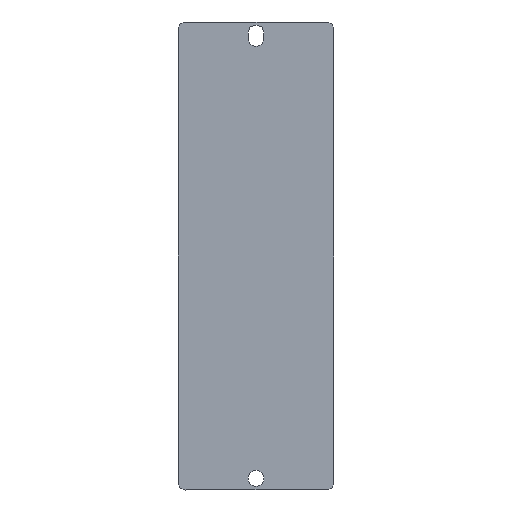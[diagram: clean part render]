
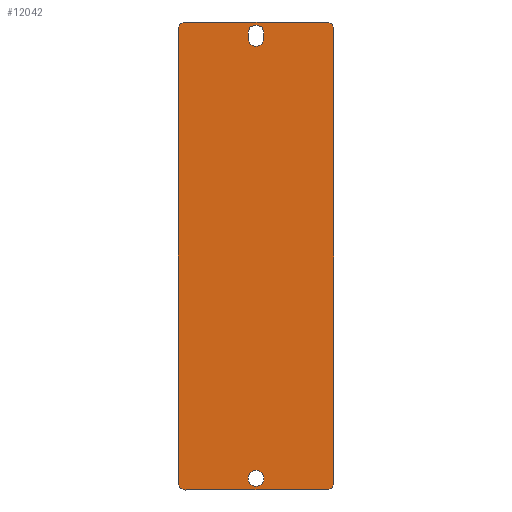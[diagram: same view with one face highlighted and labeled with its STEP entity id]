
A CAD part, front view. The second image highlights one B-rep face of the part: STEP entity #12042.
In plain terms, the highlighted planar face has unit normal (0, -1, 0).
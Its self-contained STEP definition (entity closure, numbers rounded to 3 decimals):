
#534 = EDGE_LOOP ( 'NONE', ( #47332, #43582 ) ) ;
#585 = VERTEX_POINT ( 'NONE', #20238 ) ;
#844 = AXIS2_PLACEMENT_3D ( 'NONE', #26925, #3196, #7349 ) ;
#1400 = EDGE_CURVE ( 'NONE', #16658, #34668, #44317, .T. ) ;
#1497 = VERTEX_POINT ( 'NONE', #35077 ) ;
#1546 = ORIENTED_EDGE ( 'NONE', *, *, #3498, .F. ) ;
#2523 = EDGE_CURVE ( 'NONE', #10595, #59843, #42676, .T. ) ;
#2930 = EDGE_CURVE ( 'NONE', #1497, #12662, #45647, .T. ) ;
#3196 = DIRECTION ( 'NONE',  ( 0., 1., 0. ) ) ;
#3498 = EDGE_CURVE ( 'NONE', #26806, #25078, #10182, .T. ) ;
#5101 = AXIS2_PLACEMENT_3D ( 'NONE', #58248, #57820, #15718 ) ;
#5510 = EDGE_CURVE ( 'NONE', #41748, #16658, #33462, .T. ) ;
#6770 = EDGE_CURVE ( 'NONE', #585, #1497, #54981, .T. ) ;
#7349 = DIRECTION ( 'NONE',  ( 0., 0., -1. ) ) ;
#7425 = CARTESIAN_POINT ( 'NONE',  ( -31.717, -22.634, 263.75 ) ) ;
#8023 = DIRECTION ( 'NONE',  ( 0., 0., -1. ) ) ;
#9322 = DIRECTION ( 'NONE',  ( 0., 0., -1. ) ) ;
#9494 = FACE_BOUND ( 'NONE', #43096, .T. ) ;
#9588 = PLANE ( 'NONE',  #41302 ) ;
#10097 = CARTESIAN_POINT ( 'NONE',  ( -58.642, -22.634, 270. ) ) ;
#10182 = LINE ( 'NONE', #11301, #33570 ) ;
#10581 = DIRECTION ( 'NONE',  ( 0., -1., 0. ) ) ;
#10595 = VERTEX_POINT ( 'NONE', #48214 ) ;
#11100 = VECTOR ( 'NONE', #34784, 1000. ) ;
#11146 = EDGE_CURVE ( 'NONE', #59843, #26806, #50159, .T. ) ;
#11280 = CIRCLE ( 'NONE', #38828, 3.075 ) ;
#11301 = CARTESIAN_POINT ( 'NONE',  ( -58.642, -22.634, 90. ) ) ;
#12042 = ADVANCED_FACE ( 'NONE', ( #17794, #9494, #29117 ), #9588, .F. ) ;
#12662 = VERTEX_POINT ( 'NONE', #22127 ) ;
#12758 = CARTESIAN_POINT ( 'NONE',  ( -25.566, -22.634, 263.75 ) ) ;
#12855 = EDGE_CURVE ( 'NONE', #55141, #24501, #15458, .T. ) ;
#13066 = CARTESIAN_POINT ( 'NONE',  ( -55.642, -22.634, 270. ) ) ;
#13133 = AXIS2_PLACEMENT_3D ( 'NONE', #19957, #53420, #19095 ) ;
#13393 = VECTOR ( 'NONE', #27809, 1000. ) ;
#13706 = CARTESIAN_POINT ( 'NONE',  ( -58.642, -22.634, 267. ) ) ;
#15458 = CIRCLE ( 'NONE', #13133, 3.075 ) ;
#15718 = DIRECTION ( 'NONE',  ( 0., 0., 1. ) ) ;
#16658 = VERTEX_POINT ( 'NONE', #17035 ) ;
#17035 = CARTESIAN_POINT ( 'NONE',  ( -28.642, -22.634, 268.825 ) ) ;
#17794 = FACE_OUTER_BOUND ( 'NONE', #57933, .T. ) ;
#17902 = ORIENTED_EDGE ( 'NONE', *, *, #2930, .F. ) ;
#18046 = CARTESIAN_POINT ( 'NONE',  ( -25.566, -22.634, 90. ) ) ;
#18398 = CARTESIAN_POINT ( 'NONE',  ( -31.717, -22.634, 90. ) ) ;
#18456 = CARTESIAN_POINT ( 'NONE',  ( -58.642, -22.634, 90. ) ) ;
#19095 = DIRECTION ( 'NONE',  ( 0., 0., 1. ) ) ;
#19957 = CARTESIAN_POINT ( 'NONE',  ( -28.642, -22.634, 94.5 ) ) ;
#19986 = LINE ( 'NONE', #18046, #27485 ) ;
#20238 = CARTESIAN_POINT ( 'NONE',  ( -1.642, -22.634, 270. ) ) ;
#21222 = ORIENTED_EDGE ( 'NONE', *, *, #2523, .F. ) ;
#22127 = CARTESIAN_POINT ( 'NONE',  ( 1.358, -22.634, 93. ) ) ;
#22302 = EDGE_CURVE ( 'NONE', #12662, #10595, #35530, .T. ) ;
#22889 = EDGE_CURVE ( 'NONE', #61076, #41748, #19986, .T. ) ;
#23810 = AXIS2_PLACEMENT_3D ( 'NONE', #56215, #32639, #37436 ) ;
#23919 = CARTESIAN_POINT ( 'NONE',  ( -55.642, -22.634, 93. ) ) ;
#24186 = DIRECTION ( 'NONE',  ( 0., 0., 1. ) ) ;
#24501 = VERTEX_POINT ( 'NONE', #57812 ) ;
#25078 = VERTEX_POINT ( 'NONE', #13706 ) ;
#25679 = DIRECTION ( 'NONE',  ( 0., 0., 1. ) ) ;
#25854 = ORIENTED_EDGE ( 'NONE', *, *, #1400, .F. ) ;
#25878 = ORIENTED_EDGE ( 'NONE', *, *, #39957, .F. ) ;
#26236 = EDGE_CURVE ( 'NONE', #24501, #55141, #11280, .T. ) ;
#26446 = AXIS2_PLACEMENT_3D ( 'NONE', #39383, #10581, #44188 ) ;
#26636 = DIRECTION ( 'NONE',  ( 0., -1., 0. ) ) ;
#26806 = VERTEX_POINT ( 'NONE', #35498 ) ;
#26925 = CARTESIAN_POINT ( 'NONE',  ( -1.642, -22.634, 267. ) ) ;
#27485 = VECTOR ( 'NONE', #41957, 1000. ) ;
#27522 = AXIS2_PLACEMENT_3D ( 'NONE', #37018, #31625, #8023 ) ;
#27809 = DIRECTION ( 'NONE',  ( -1., 0., 0. ) ) ;
#28280 = ORIENTED_EDGE ( 'NONE', *, *, #6770, .F. ) ;
#29117 = FACE_BOUND ( 'NONE', #534, .T. ) ;
#29247 = DIRECTION ( 'NONE',  ( 0., -1., 0. ) ) ;
#30567 = ORIENTED_EDGE ( 'NONE', *, *, #22302, .F. ) ;
#31564 = VERTEX_POINT ( 'NONE', #13066 ) ;
#31625 = DIRECTION ( 'NONE',  ( 0., 1., 0. ) ) ;
#32639 = DIRECTION ( 'NONE',  ( 0., 1., 0. ) ) ;
#33462 = CIRCLE ( 'NONE', #5101, 3.075 ) ;
#33570 = VECTOR ( 'NONE', #25679, 1000. ) ;
#34668 = VERTEX_POINT ( 'NONE', #38764 ) ;
#34784 = DIRECTION ( 'NONE',  ( 0., 0., -1. ) ) ;
#35077 = CARTESIAN_POINT ( 'NONE',  ( 1.358, -22.634, 267. ) ) ;
#35389 = ORIENTED_EDGE ( 'NONE', *, *, #60253, .F. ) ;
#35498 = CARTESIAN_POINT ( 'NONE',  ( -58.642, -22.634, 93. ) ) ;
#35530 = CIRCLE ( 'NONE', #23810, 3. ) ;
#37018 = CARTESIAN_POINT ( 'NONE',  ( -55.642, -22.634, 267. ) ) ;
#37436 = DIRECTION ( 'NONE',  ( 0., 0., -1. ) ) ;
#38501 = DIRECTION ( 'NONE',  ( 1., 0., 0. ) ) ;
#38635 = AXIS2_PLACEMENT_3D ( 'NONE', #43438, #29247, #43023 ) ;
#38764 = CARTESIAN_POINT ( 'NONE',  ( -31.717, -22.634, 265.75 ) ) ;
#38828 = AXIS2_PLACEMENT_3D ( 'NONE', #50426, #26636, #55031 ) ;
#39031 = EDGE_CURVE ( 'NONE', #34668, #45736, #50851, .T. ) ;
#39383 = CARTESIAN_POINT ( 'NONE',  ( -28.642, -22.634, 263.75 ) ) ;
#39957 = EDGE_CURVE ( 'NONE', #45736, #61076, #43389, .T. ) ;
#40252 = CARTESIAN_POINT ( 'NONE',  ( 1.358, -22.634, 90. ) ) ;
#40479 = LINE ( 'NONE', #10097, #44968 ) ;
#41302 = AXIS2_PLACEMENT_3D ( 'NONE', #18456, #61621, #24186 ) ;
#41748 = VERTEX_POINT ( 'NONE', #53550 ) ;
#41957 = DIRECTION ( 'NONE',  ( 0., 0., 1. ) ) ;
#42676 = LINE ( 'NONE', #46418, #13393 ) ;
#43023 = DIRECTION ( 'NONE',  ( 0., 0., 1. ) ) ;
#43096 = EDGE_LOOP ( 'NONE', ( #49376, #25878, #51036, #25854, #43428 ) ) ;
#43133 = DIRECTION ( 'NONE',  ( 0., 1., 0. ) ) ;
#43389 = CIRCLE ( 'NONE', #26446, 3.075 ) ;
#43399 = CIRCLE ( 'NONE', #27522, 3. ) ;
#43428 = ORIENTED_EDGE ( 'NONE', *, *, #5510, .F. ) ;
#43438 = CARTESIAN_POINT ( 'NONE',  ( -28.642, -22.634, 265.75 ) ) ;
#43582 = ORIENTED_EDGE ( 'NONE', *, *, #12855, .F. ) ;
#44188 = DIRECTION ( 'NONE',  ( 0., 0., 1. ) ) ;
#44317 = CIRCLE ( 'NONE', #38635, 3.075 ) ;
#44968 = VECTOR ( 'NONE', #38501, 1000. ) ;
#45647 = LINE ( 'NONE', #40252, #47834 ) ;
#45736 = VERTEX_POINT ( 'NONE', #7425 ) ;
#46418 = CARTESIAN_POINT ( 'NONE',  ( -58.642, -22.634, 90. ) ) ;
#47332 = ORIENTED_EDGE ( 'NONE', *, *, #26236, .F. ) ;
#47834 = VECTOR ( 'NONE', #53780, 1000. ) ;
#48214 = CARTESIAN_POINT ( 'NONE',  ( -1.642, -22.634, 90. ) ) ;
#49376 = ORIENTED_EDGE ( 'NONE', *, *, #22889, .F. ) ;
#50159 = CIRCLE ( 'NONE', #55198, 3. ) ;
#50426 = CARTESIAN_POINT ( 'NONE',  ( -28.642, -22.634, 94.5 ) ) ;
#50851 = LINE ( 'NONE', #18398, #11100 ) ;
#51036 = ORIENTED_EDGE ( 'NONE', *, *, #39031, .F. ) ;
#52902 = EDGE_CURVE ( 'NONE', #25078, #31564, #43399, .T. ) ;
#53420 = DIRECTION ( 'NONE',  ( 0., -1., 0. ) ) ;
#53550 = CARTESIAN_POINT ( 'NONE',  ( -25.566, -22.634, 265.75 ) ) ;
#53780 = DIRECTION ( 'NONE',  ( 0., 0., -1. ) ) ;
#54981 = CIRCLE ( 'NONE', #844, 3. ) ;
#55031 = DIRECTION ( 'NONE',  ( 0., 0., 1. ) ) ;
#55141 = VERTEX_POINT ( 'NONE', #55306 ) ;
#55198 = AXIS2_PLACEMENT_3D ( 'NONE', #23919, #43133, #9322 ) ;
#55306 = CARTESIAN_POINT ( 'NONE',  ( -28.642, -22.634, 91.425 ) ) ;
#56215 = CARTESIAN_POINT ( 'NONE',  ( -1.642, -22.634, 93. ) ) ;
#57812 = CARTESIAN_POINT ( 'NONE',  ( -28.642, -22.634, 97.575 ) ) ;
#57820 = DIRECTION ( 'NONE',  ( 0., -1., 0. ) ) ;
#57933 = EDGE_LOOP ( 'NONE', ( #61845, #21222, #30567, #17902, #28280, #35389, #61095, #1546 ) ) ;
#58248 = CARTESIAN_POINT ( 'NONE',  ( -28.642, -22.634, 265.75 ) ) ;
#59843 = VERTEX_POINT ( 'NONE', #60156 ) ;
#60156 = CARTESIAN_POINT ( 'NONE',  ( -55.642, -22.634, 90. ) ) ;
#60253 = EDGE_CURVE ( 'NONE', #31564, #585, #40479, .T. ) ;
#61076 = VERTEX_POINT ( 'NONE', #12758 ) ;
#61095 = ORIENTED_EDGE ( 'NONE', *, *, #52902, .F. ) ;
#61621 = DIRECTION ( 'NONE',  ( 0., 1., 0. ) ) ;
#61845 = ORIENTED_EDGE ( 'NONE', *, *, #11146, .F. ) ;
